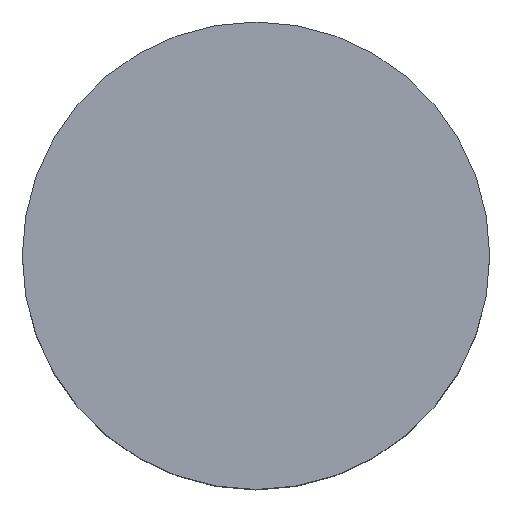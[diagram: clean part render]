
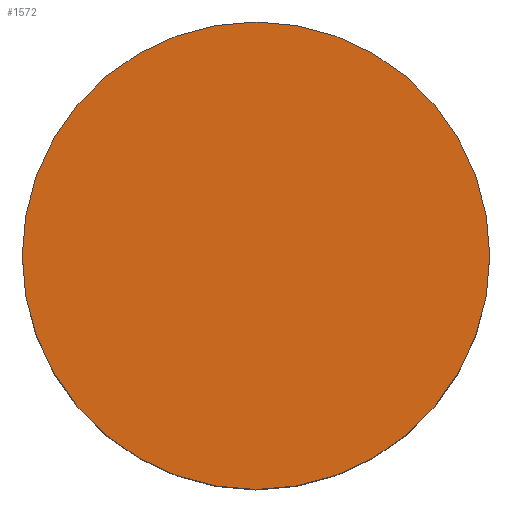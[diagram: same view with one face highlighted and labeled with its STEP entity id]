
A CAD part, top view. The second image highlights one B-rep face of the part: STEP entity #1572.
In plain terms, the highlighted planar face has unit normal (0, 0, 1).
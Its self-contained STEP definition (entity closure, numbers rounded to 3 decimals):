
#147 = DIRECTION ( 'NONE',  ( 0., 0., 1. ) ) ;
#428 = DIRECTION ( 'NONE',  ( 0., 0., -1. ) ) ;
#545 = EDGE_CURVE ( 'NONE', #3628, #3198, #2222, .T. ) ;
#585 = AXIS2_PLACEMENT_3D ( 'NONE', #2144, #428, #2418 ) ;
#915 = CARTESIAN_POINT ( 'NONE',  ( -27.577, -0.207, 11.955 ) ) ;
#1035 = EDGE_LOOP ( 'NONE', ( #2726, #2508 ) ) ;
#1213 = DIRECTION ( 'NONE',  ( 1., 0., 0. ) ) ;
#1529 = CARTESIAN_POINT ( 'NONE',  ( -49.927, -0.207, 11.955 ) ) ;
#1563 = AXIS2_PLACEMENT_3D ( 'NONE', #915, #2906, #1213 ) ;
#1572 = ADVANCED_FACE ( 'NONE', ( #3507 ), #3518, .T. ) ;
#1653 = CIRCLE ( 'NONE', #585, 22.35 ) ;
#1852 = CARTESIAN_POINT ( 'NONE',  ( -47.627, -0.171, 11.955 ) ) ;
#2130 = DIRECTION ( 'NONE',  ( 1., 0., 0. ) ) ;
#2144 = CARTESIAN_POINT ( 'NONE',  ( -27.577, -0.207, 11.955 ) ) ;
#2222 = CIRCLE ( 'NONE', #1563, 22.35 ) ;
#2409 = AXIS2_PLACEMENT_3D ( 'NONE', #1852, #147, #2130 ) ;
#2418 = DIRECTION ( 'NONE',  ( 1., 0., 0. ) ) ;
#2508 = ORIENTED_EDGE ( 'NONE', *, *, #545, .F. ) ;
#2646 = EDGE_CURVE ( 'NONE', #3198, #3628, #1653, .T. ) ;
#2726 = ORIENTED_EDGE ( 'NONE', *, *, #2646, .F. ) ;
#2906 = DIRECTION ( 'NONE',  ( 0., 0., -1. ) ) ;
#3198 = VERTEX_POINT ( 'NONE', #3402 ) ;
#3402 = CARTESIAN_POINT ( 'NONE',  ( -5.227, -0.207, 11.955 ) ) ;
#3507 = FACE_OUTER_BOUND ( 'NONE', #1035, .T. ) ;
#3518 = PLANE ( 'NONE',  #2409 ) ;
#3628 = VERTEX_POINT ( 'NONE', #1529 ) ;
